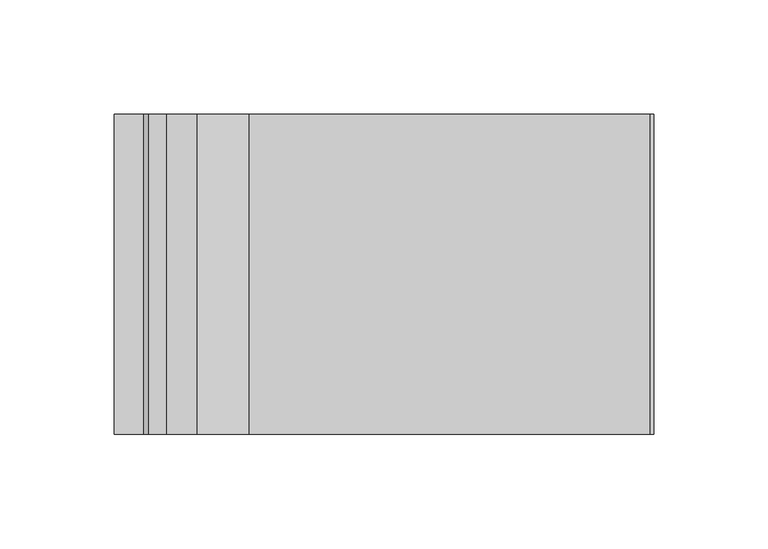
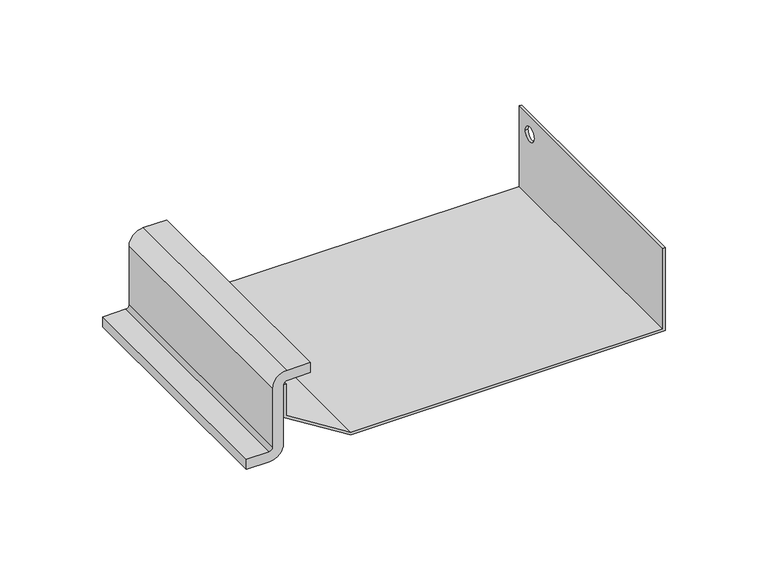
"""IFC4 building model written with IfcOpenShell, lengths in millimetres: fastener geometry, REC-CMFPR-2 : CMFPR-2."""

from ifc_helpers import new_model, si_unit, point, frame, frame_2d, origin, place, context, project, spatial, polyline, circle_curve, trimmed, segment, composite_curve, outline, extrude, source, transform, mapped, element, save
from ifc_brep_helpers import plane_surface, revolved_surface, advanced_brep


def fastener_4d305c28(model_context):
    return source(origin(), model_context, "Body", "SolidModel", [
        extrude(outline(composite_curve([segment(polyline([(-51.0, -236.0000155), (-51.0, -223.0000155)]), True, "CONTINUOUS"), segment(trimmed(circle_curve(frame_2d((-43.0, -223.0000155)), 8.0), [point((-51.0, -223.0000155))], [point((-43.0, -215.0000155))], False, "CARTESIAN"), True, "CONTINUOUS"), segment(polyline([(-43.0, -215.0000155), (-8.0, -215.0000155)]), True, "CONTINUOUS"), segment(trimmed(circle_curve(frame_2d((-8.0, -213.0000155)), 2.0), [point((-8.0, -215.0000155))], [point((-6.0, -213.0000155))], True, "CARTESIAN"), True, "CONTINUOUS"), segment(polyline([(-6.0, -213.0000155), (-6.0, -200.0000155), (0.0, -200.0000155), (0.0, -213.0000155)]), True, "CONTINUOUS"), segment(trimmed(circle_curve(frame_2d((-8.0, -213.0000155)), 8.0), [point((0.0, -213.0000155))], [point((-8.0, -221.0000155))], False, "CARTESIAN"), True, "CONTINUOUS"), segment(polyline([(-8.0, -221.0000155), (-43.0, -221.0000155)]), True, "CONTINUOUS"), segment(trimmed(circle_curve(frame_2d((-43.0, -223.0000155)), 2.0), [point((-43.0, -221.0000155))], [point((-45.0, -223.0000155))], True, "CARTESIAN"), True, "CONTINUOUS"), segment(polyline([(-45.0, -223.0000155), (-45.0, -236.0000155), (-51.0, -236.0000155)]), True, "CONTINUOUS")], self_intersect=False)), frame((0.0, -70.0, 0.0), z_axis=(0.0, 1.0, 0.0), x_axis=(0.0, 0.0, 1.0)), (0.0, 0.0, 1.0), 140.0),
        advanced_brep(
        [(0.0, -70.0, -51.0), (0.0, -70.0, -1.5), (-1.5, -70.0, -1.5), (-1.5, -70.0, -49.5), (-177.0, -70.0, -49.5), (-213.5, -70.0, -26.8108124), (-213.5, -70.0, -8.0), (-215.0, -70.0, -8.0), (-215.0, -70.0, -27.37838), (-177.0, -70.0, -51.0), (0.0, 70.0, -51.0), (-177.0, 70.0, -51.0), (-215.0, 70.0, -27.37838), (-215.0, 70.0, -8.0), (-213.5, 70.0, -8.0), (-213.5, 70.0, -26.8108124), (-177.0, 70.0, -49.5), (-1.5, 70.0, -49.5), (-1.5, 70.0, -1.5), (0.0, 70.0, -1.5), (0.0, 64.0, -12.25), (0.0, 55.5, -12.25), (-1.5, 55.5, -12.25), (-1.5, 64.0, -12.25)],
        [
            (0, 1),
            (1, 2),
            (2, 3),
            (3, 4),
            (4, 5),
            (5, 6),
            (6, 7),
            (7, 8),
            (8, 9),
            (9, 0),
            (10, 11),
            (11, 12),
            (12, 13),
            (13, 14),
            (14, 15),
            (15, 16),
            (16, 17),
            (17, 18),
            (18, 19),
            (19, 10),
            (0, 10),
            (19, 1),
            (20, 21, circle_curve(frame((0.0, 59.75, -12.25), z_axis=(-1.0, 0.0, 0.0), x_axis=(0.0, 1.0, 0.0)), 4.25)),
            (21, 20, circle_curve(frame((0.0, 59.75, -12.25), z_axis=(-1.0, 0.0, 0.0), x_axis=(0.0, 1.0, 0.0)), 4.25)),
            (18, 2),
            (17, 3),
            (22, 23, circle_curve(frame((-1.5, 59.75, -12.25), z_axis=(1.0, 0.0, 0.0), x_axis=(0.0, 1.0, 0.0)), 4.25)),
            (23, 22, circle_curve(frame((-1.5, 59.75, -12.25), z_axis=(1.0, 0.0, 0.0), x_axis=(0.0, 1.0, 0.0)), 4.25)),
            (16, 4),
            (15, 5),
            (14, 6),
            (13, 7),
            (12, 8),
            (11, 9),
            (20, 23),
            (22, 21),
        ],
        [
            plane_surface(frame((0.0, -70.0, -2.0), z_axis=(0.0, -1.0, 0.0), x_axis=(0.0, 0.0, 1.0))),
            plane_surface(frame((0.0, 70.0, -2.0), z_axis=(0.0, 1.0, 0.0), x_axis=(0.0, 0.0, -1.0))),
            plane_surface(frame((0.0, -70.0, -51.0), z_axis=(1.0, 0.0, 0.0), x_axis=(0.0, 1.0, 0.0))),
            plane_surface(frame((0.0, -70.0, -1.5), z_axis=(0.0, 0.0, 1.0), x_axis=(0.0, 1.0, 0.0))),
            plane_surface(frame((-1.5, -70.0, -1.5), z_axis=(-1.0, 0.0, 0.0), x_axis=(0.0, 1.0, 0.0))),
            plane_surface(frame((-1.5, -70.0, -49.5), z_axis=(0.0, 0.0, 1.0), x_axis=(0.0, 1.0, 0.0))),
            plane_surface(frame((-177.0, -70.0, -49.5), z_axis=(0.5279340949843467, 0.0, 0.8492853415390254), x_axis=(0.0, 1.0, 0.0))),
            plane_surface(frame((-213.5, -70.0, -26.8108124), z_axis=(1.0, 0.0, 0.0), x_axis=(0.0, 1.0, 0.0))),
            plane_surface(frame((-213.5, -70.0, -8.0), z_axis=(0.0, 0.0, 1.0), x_axis=(0.0, 1.0, 0.0))),
            plane_surface(frame((-215.0, -70.0, -8.0), z_axis=(-1.0, 0.0, 0.0), x_axis=(0.0, 1.0, 0.0))),
            plane_surface(frame((-215.0, -70.0, -27.37838), z_axis=(-0.5279340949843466, 0.0, -0.8492853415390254), x_axis=(0.0, 1.0, 0.0))),
            plane_surface(frame((-177.0, -70.0, -51.0), z_axis=(0.0, 0.0, -1.0), x_axis=(0.0, 1.0, 0.0))),
            revolved_surface(polyline([(0.0, 64.0, -12.25), (-1.5, 64.0, -12.25)]), (-1.5, 59.75, -12.25), (1.0, 0.0, 0.0)),
        ],
        [
            (0, [[1, 2, 3, 4, 5, 6, 7, 8, 9, 10]]),
            (1, [[11, 12, 13, 14, 15, 16, 17, 18, 19, 20]]),
            (2, [[-1, 21, -20, 22], [23, 24]]),
            (3, [[-2, -22, -19, 25]]),
            (4, [[-3, -25, -18, 26], [27, 28]]),
            (5, [[-4, -26, -17, 29]]),
            (6, [[-5, -29, -16, 30]]),
            (7, [[-6, -30, -15, 31]]),
            (8, [[-7, -31, -14, 32]]),
            (9, [[-8, -32, -13, 33]]),
            (10, [[-9, -33, -12, 34]]),
            (11, [[-10, -34, -11, -21]]),
            (12, [[35, -27, 36, -23]]),
            (12, [[-35, -24, -36, -28]]),
        ],
    ),
    ])


if __name__ == "__main__":
    model = new_model("IFC4")
    model_context = context("Model", 3, world=origin())
    ifc_project = project(units=[si_unit("LENGTHUNIT", "METRE", prefix="MILLI")], contexts=[model_context])
    site = spatial("IfcSite", under=ifc_project)
    building = spatial("IfcBuilding", under=site)
    placement = place(None, origin())
    fastener_shape = fastener_4d305c28(model_context)
    element("IfcFastener", 1, ObjectType="REC-CMFPR-2 : CMFPR-2", at=placement, inside=building, context=model_context, shape_type="MappedRepresentation", body=[
        mapped(fastener_shape, transform((0.0, 0.0, 0.0), x_axis=(1.0, 0.0, 0.0), y_axis=(0.0, 1.0, 0.0), z_axis=(0.0, 0.0, 1.0))),
    ])
    save(model, "model.ifc")
